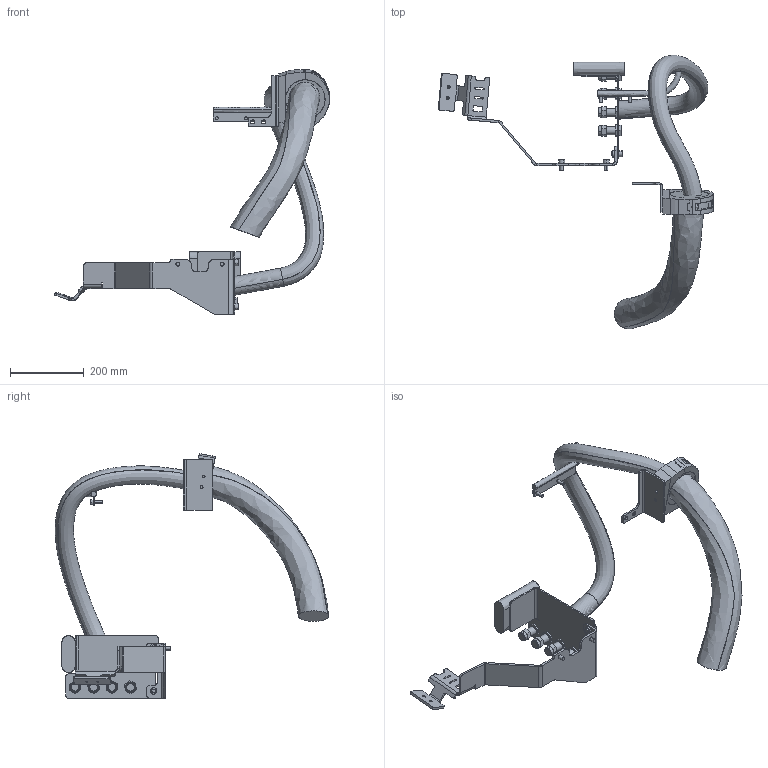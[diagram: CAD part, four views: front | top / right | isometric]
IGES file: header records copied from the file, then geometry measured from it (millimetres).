
Start section: SolidWorks IGES file using analytic representation for surfaces
Global section: file name: C:\Data\SAP_DOC\LW\IRB 6720\IRB6720-LID-SW_140kg-320_OC_01_SW_J\IRB6720-LID-SW_140kg-320_OC_01_IGES_J\IRB6720-LID-SW_140kg-320_OC_00_LINK03a_CABLE.igs; native system: SolidWorks 2024; preprocessor: SolidWorks 2024; author: SEJOVAS3; date: 260610.140813; units: millimetre
Bounding box: 747.03 x 742.34 x 663.9 mm (x, y, z)
Surface area: 683678.4 mm2 (no closed solid volume)
Topology: 0 solids, 0 shells, 581 faces, 8478 edges, 8478 vertices
Faces by surface type: bspline 363, revolution 218
